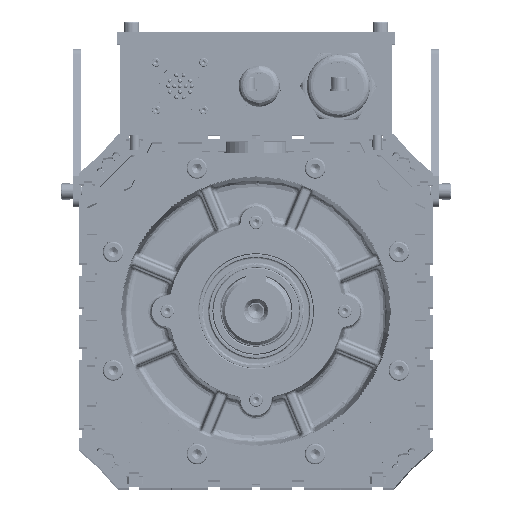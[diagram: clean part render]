
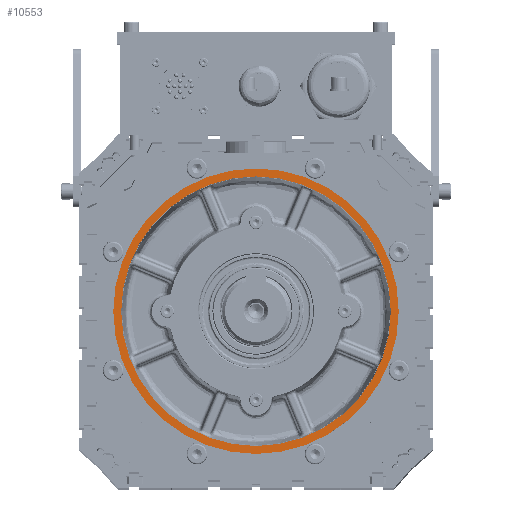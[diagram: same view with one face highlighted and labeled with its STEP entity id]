
A CAD part, top view. The second image highlights one B-rep face of the part: STEP entity #10553.
In plain terms, the highlighted planar face has unit normal (0, 0, 1) as drawn and (0, 0, -1) by its records, which use the part's own axes.
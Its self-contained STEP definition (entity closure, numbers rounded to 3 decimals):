
#3308 = PLANE ( 'NONE',  #185601 ) ;
#7034 = CARTESIAN_POINT ( 'NONE',  ( -28.364, -115.305, 205. ) ) ;
#10553 = ADVANCED_FACE ( 'NONE', ( #164457, #100814 ), #3308, .F. ) ;
#13938 = CIRCLE ( 'NONE', #172374, 85. ) ;
#18488 = EDGE_CURVE ( 'NONE', #169766, #168371, #96772, .T. ) ;
#35432 = EDGE_LOOP ( 'NONE', ( #146505, #174633 ) ) ;
#42154 = ORIENTED_EDGE ( 'NONE', *, *, #110777, .F. ) ;
#57474 = EDGE_CURVE ( 'NONE', #127366, #101879, #13938, .T. ) ;
#60552 = DIRECTION ( 'NONE',  ( 0., 0., -1. ) ) ;
#69907 = AXIS2_PLACEMENT_3D ( 'NONE', #102591, #175131, #146479 ) ;
#74632 = DIRECTION ( 'NONE',  ( 0., 0., 1. ) ) ;
#96772 = CIRCLE ( 'NONE', #69907, 90. ) ;
#100814 = FACE_BOUND ( 'NONE', #160538, .T. ) ;
#101879 = VERTEX_POINT ( 'NONE', #113561 ) ;
#102591 = CARTESIAN_POINT ( 'NONE',  ( -28.364, -25.305, 205. ) ) ;
#103947 = DIRECTION ( 'NONE',  ( -1., 0., 0. ) ) ;
#104159 = CARTESIAN_POINT ( 'NONE',  ( -28.364, -25.305, 205. ) ) ;
#104819 = DIRECTION ( 'NONE',  ( -1., 0., 0. ) ) ;
#110777 = EDGE_CURVE ( 'NONE', #101879, #127366, #131340, .T. ) ;
#113561 = CARTESIAN_POINT ( 'NONE',  ( -113.364, -25.305, 205. ) ) ;
#120322 = EDGE_CURVE ( 'NONE', #168371, #169766, #137692, .T. ) ;
#120357 = DIRECTION ( 'NONE',  ( -1., 0., 0. ) ) ;
#122687 = DIRECTION ( 'NONE',  ( 0., 0., 1. ) ) ;
#125852 = AXIS2_PLACEMENT_3D ( 'NONE', #104159, #149273, #104819 ) ;
#126151 = AXIS2_PLACEMENT_3D ( 'NONE', #163027, #74632, #103947 ) ;
#127366 = VERTEX_POINT ( 'NONE', #159201 ) ;
#131340 = CIRCLE ( 'NONE', #125852, 85. ) ;
#134235 = CARTESIAN_POINT ( 'NONE',  ( -118.364, -25.305, 205. ) ) ;
#137360 = DIRECTION ( 'NONE',  ( 1., 0., 0. ) ) ;
#137692 = CIRCLE ( 'NONE', #126151, 90. ) ;
#146479 = DIRECTION ( 'NONE',  ( -1., 0., 0. ) ) ;
#146505 = ORIENTED_EDGE ( 'NONE', *, *, #18488, .F. ) ;
#149273 = DIRECTION ( 'NONE',  ( 0., 0., -1. ) ) ;
#159201 = CARTESIAN_POINT ( 'NONE',  ( 56.636, -25.305, 205. ) ) ;
#160538 = EDGE_LOOP ( 'NONE', ( #42154, #171957 ) ) ;
#163027 = CARTESIAN_POINT ( 'NONE',  ( -28.364, -25.305, 205. ) ) ;
#164457 = FACE_OUTER_BOUND ( 'NONE', #35432, .T. ) ;
#168371 = VERTEX_POINT ( 'NONE', #187285 ) ;
#169766 = VERTEX_POINT ( 'NONE', #134235 ) ;
#171957 = ORIENTED_EDGE ( 'NONE', *, *, #57474, .F. ) ;
#172374 = AXIS2_PLACEMENT_3D ( 'NONE', #178284, #60552, #120357 ) ;
#174633 = ORIENTED_EDGE ( 'NONE', *, *, #120322, .F. ) ;
#175131 = DIRECTION ( 'NONE',  ( 0., 0., 1. ) ) ;
#178284 = CARTESIAN_POINT ( 'NONE',  ( -28.364, -25.305, 205. ) ) ;
#185601 = AXIS2_PLACEMENT_3D ( 'NONE', #7034, #122687, #137360 ) ;
#187285 = CARTESIAN_POINT ( 'NONE',  ( 61.636, -25.305, 205. ) ) ;
